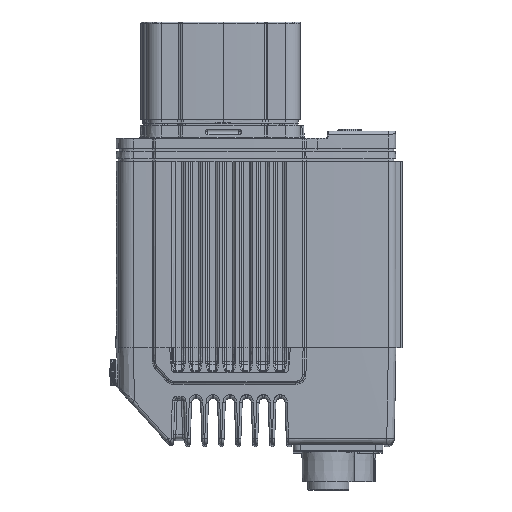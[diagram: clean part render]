
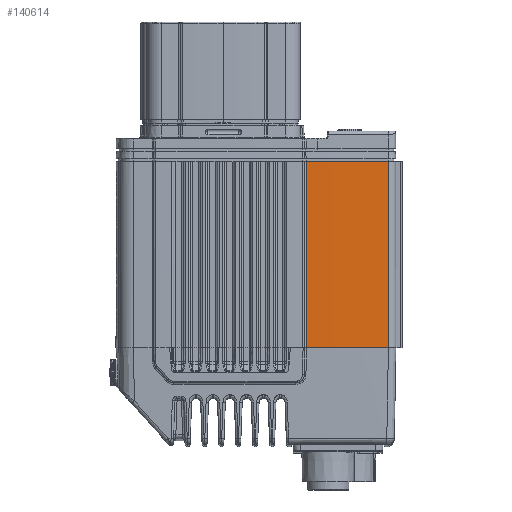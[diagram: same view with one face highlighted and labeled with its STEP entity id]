
A CAD part, left-side view. The second image highlights one B-rep face of the part: STEP entity #140614.
In plain terms, the highlighted cylindrical face has radius 1000 mm (diameter 2000 mm), a partial arc.
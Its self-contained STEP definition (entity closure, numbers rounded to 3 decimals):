
#881 = EDGE_CURVE ( 'NONE', #164243, #39732, #62029, .T. ) ;
#16774 = CARTESIAN_POINT ( 'NONE',  ( -29.578, -43.037, -4.65 ) ) ;
#23311 = EDGE_CURVE ( 'NONE', #47771, #82342, #48568, .T. ) ;
#24034 = VECTOR ( 'NONE', #123480, 1000. ) ;
#28866 = CARTESIAN_POINT ( 'NONE',  ( -29.578, -43.037, -4.65 ) ) ;
#31446 = CARTESIAN_POINT ( 'NONE',  ( 970.251, -24.5, -4.65 ) ) ;
#32321 = AXIS2_PLACEMENT_3D ( 'NONE', #36450, #39687, #128977 ) ;
#34390 = CARTESIAN_POINT ( 'NONE',  ( 970.251, -24.5, -4.65 ) ) ;
#36450 = CARTESIAN_POINT ( 'NONE',  ( 970.251, -24.5, -53.15 ) ) ;
#39687 = DIRECTION ( 'NONE',  ( 0., 0., -1. ) ) ;
#39732 = VERTEX_POINT ( 'NONE', #65519 ) ;
#44542 = VECTOR ( 'NONE', #102510, 1000. ) ;
#45934 = AXIS2_PLACEMENT_3D ( 'NONE', #34390, #123676, #47225 ) ;
#47225 = DIRECTION ( 'NONE',  ( 1., 0., 0. ) ) ;
#47771 = VERTEX_POINT ( 'NONE', #99135 ) ;
#48568 = LINE ( 'NONE', #63946, #44542 ) ;
#54674 = CIRCLE ( 'NONE', #32321, 1000. ) ;
#56590 = DIRECTION ( 'NONE',  ( 0., 0., -1. ) ) ;
#62029 = LINE ( 'NONE', #28866, #24034 ) ;
#63946 = CARTESIAN_POINT ( 'NONE',  ( -29.745, -21.637, -4.65 ) ) ;
#65519 = CARTESIAN_POINT ( 'NONE',  ( -29.578, -43.038, -53.15 ) ) ;
#70452 = FACE_OUTER_BOUND ( 'NONE', #110284, .T. ) ;
#75273 = AXIS2_PLACEMENT_3D ( 'NONE', #31446, #56590, #120801 ) ;
#82342 = VERTEX_POINT ( 'NONE', #140758 ) ;
#99135 = CARTESIAN_POINT ( 'NONE',  ( -29.745, -21.637, -53.15 ) ) ;
#102510 = DIRECTION ( 'NONE',  ( 0., 0., 1. ) ) ;
#105698 = EDGE_CURVE ( 'NONE', #39732, #47771, #54674, .T. ) ;
#110105 = ORIENTED_EDGE ( 'NONE', *, *, #23311, .F. ) ;
#110284 = EDGE_LOOP ( 'NONE', ( #163720, #165167, #131766, #110105 ) ) ;
#110677 = CIRCLE ( 'NONE', #45934, 1000. ) ;
#120801 = DIRECTION ( 'NONE',  ( 1., 0., 0. ) ) ;
#123480 = DIRECTION ( 'NONE',  ( 0., 0., -1. ) ) ;
#123676 = DIRECTION ( 'NONE',  ( 0., 0., -1. ) ) ;
#128977 = DIRECTION ( 'NONE',  ( 1., 0., 0. ) ) ;
#131766 = ORIENTED_EDGE ( 'NONE', *, *, #157868, .T. ) ;
#138414 = CYLINDRICAL_SURFACE ( 'NONE', #75273, 1000. ) ;
#140614 = ADVANCED_FACE ( 'NONE', ( #70452 ), #138414, .T. ) ;
#140758 = CARTESIAN_POINT ( 'NONE',  ( -29.745, -21.637, -4.65 ) ) ;
#157868 = EDGE_CURVE ( 'NONE', #164243, #82342, #110677, .T. ) ;
#163720 = ORIENTED_EDGE ( 'NONE', *, *, #105698, .F. ) ;
#164243 = VERTEX_POINT ( 'NONE', #16774 ) ;
#165167 = ORIENTED_EDGE ( 'NONE', *, *, #881, .F. ) ;
